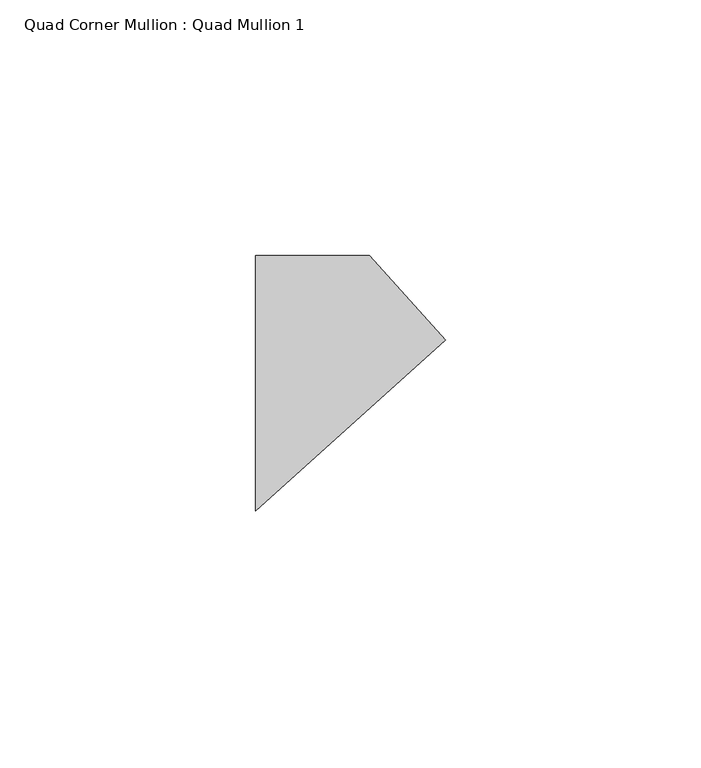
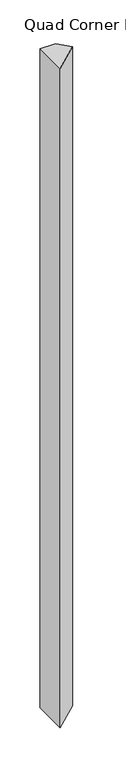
"""IFC4 building model written with IfcOpenShell, lengths in millimetres: member geometry, Quad Corner Mullion : Quad Mullion 1."""

from ifc_helpers import new_model, si_unit, frame, origin, place, context, project, spatial, polyline, outline, extrude, source, transform, mapped, element, save


def quad_corner_mullion_quad_mullion_1_8438b49e(model_context):
    return source(origin(), model_context, "Body", "SweptSolid", [
        extrude(outline(polyline([(26.0265241, 8.4565303), (-11.1307171, -25.0), (-11.1307171, 25.0), (11.1307171, 25.0), (26.0265241, 8.4565303)])), frame((0.0, 0.0, -1000.0), z_axis=(0.0, 0.0, 1.0), x_axis=(1.0, 0.0, 0.0)), (0.0, 0.0, 1.0), 1000.0),
    ])


if __name__ == "__main__":
    model = new_model("IFC4")
    model_context = context("Model", 3, world=origin())
    ifc_project = project(units=[si_unit("LENGTHUNIT", "METRE", prefix="MILLI")], contexts=[model_context])
    site = spatial("IfcSite", under=ifc_project)
    building = spatial("IfcBuilding", under=site)
    placement = place(None, origin())
    quad_corner_mullion_quad_mullion_1_shape = quad_corner_mullion_quad_mullion_1_8438b49e(model_context)
    element("IfcMember", 1, ObjectType="Quad Corner Mullion : Quad Mullion 1", at=placement, inside=building, context=model_context, shape_type="MappedRepresentation", body=[
        mapped(quad_corner_mullion_quad_mullion_1_shape, transform((0.0, 0.0, 0.0), x_axis=(1.0, 0.0, 0.0), y_axis=(0.0, 1.0, 0.0), z_axis=(0.0, 0.0, 1.0))),
    ])
    save(model, "model.ifc")
